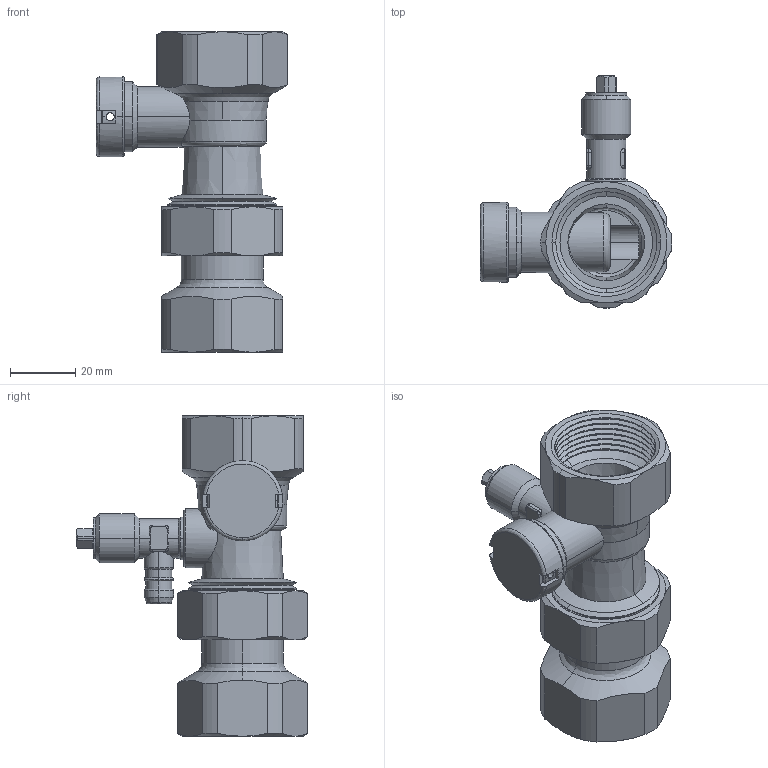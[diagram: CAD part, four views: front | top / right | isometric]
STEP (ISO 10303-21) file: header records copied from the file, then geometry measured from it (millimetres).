
FILE_DESCRIPTION (( 'STEP AP214' ), '1' );
FILE_NAME ('77934.STEP', '2022-05-17T10:07:01', ( '' ), ( '' ), 'SwSTEP 2.0', 'SolidWorks 2021', '' );
FILE_SCHEMA (( 'AUTOMOTIVE_DESIGN' ));
Length unit declared in the file: millimetre
Products named in the file (9): A5_00_350414_GEHAEUSE_G1; A010000X0; A7934; SPINDEL; A01_000X; A010000X; A5_00_350425_KAPPE; GEHAEUSE; 77934
Assembly tree (8 placements, depth 4):
  77934
    A7934
      GEHAEUSE
      SPINDEL
      A01_000X
      A010000X
        A010000X0
      A5_00_350414_GEHAEUSE_G1
      A5_00_350425_KAPPE
Bounding box: 58.48 x 70.88 x 98 mm (x, y, z)
Volume: 48029.2 mm3; surface area: 38661.6 mm2
Topology: 6 solids, 6 shells, 823 faces, 2054 edges, 1253 vertices
Faces by surface type: cylinder 353, cone 331, plane 92, bspline 47
Entity records: 36472 total; most frequent: CARTESIAN_POINT 7335, DIRECTION 4435, ORIENTED_EDGE 4104, EDGE_CURVE 2052, AXIS2_PLACEMENT_3D 1856, VERTEX_POINT 1253, CIRCLE 1067, EDGE_LOOP 857
